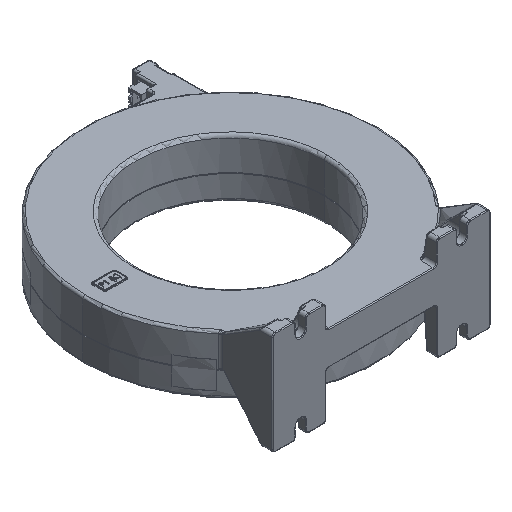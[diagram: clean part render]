
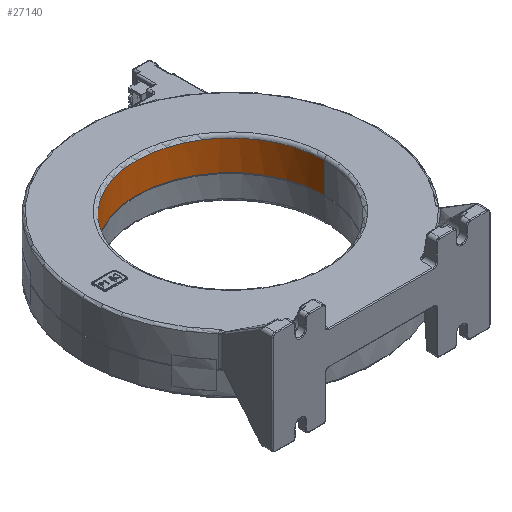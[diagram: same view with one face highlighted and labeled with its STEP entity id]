
A CAD part, isometric view. The second image highlights one B-rep face of the part: STEP entity #27140.
In plain terms, the highlighted cylindrical face has radius 60 mm (diameter 120 mm), a partial arc.
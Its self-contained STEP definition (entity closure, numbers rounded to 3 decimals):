
#343 = CARTESIAN_POINT ( 'NONE',  ( 47.706, 36.599, -2. ) ) ;
#941 = CARTESIAN_POINT ( 'NONE',  ( 36.599, 47.706, -2. ) ) ;
#1529 = CARTESIAN_POINT ( 'NONE',  ( 7.854, 59.613, -2. ) ) ;
#4025 = CIRCLE ( 'NONE', #21130, 60. ) ;
#4093 = EDGE_CURVE ( 'NONE', #14549, #35605, #33421, .T. ) ;
#4246 = CARTESIAN_POINT ( 'NONE',  ( -60., 3.927, -2. ) ) ;
#4535 = CARTESIAN_POINT ( 'NONE',  ( -15.557, 58.081, -2. ) ) ;
#5112 = CARTESIAN_POINT ( 'NONE',  ( 19.333, 56.936, -2. ) ) ;
#5984 = CARTESIAN_POINT ( 'NONE',  ( 59.613, 7.854, -2. ) ) ;
#7756 = DIRECTION ( 'NONE',  ( 1., 0., 0. ) ) ;
#9039 = CARTESIAN_POINT ( 'NONE',  ( -26.589, 53.93, -2. ) ) ;
#9331 = CARTESIAN_POINT ( 'NONE',  ( -3.927, 60., -2. ) ) ;
#12651 = EDGE_CURVE ( 'NONE', #22078, #35605, #56354, .T. ) ;
#12837 = CARTESIAN_POINT ( 'NONE',  ( -39.65, 45.203, -2. ) ) ;
#13423 = CARTESIAN_POINT ( 'NONE',  ( -56.936, 19.333, -2. ) ) ;
#13882 = ORIENTED_EDGE ( 'NONE', *, *, #58678, .T. ) ;
#14319 = CARTESIAN_POINT ( 'NONE',  ( 56.936, 19.333, -2. ) ) ;
#14549 = VERTEX_POINT ( 'NONE', #46084 ) ;
#14604 = DIRECTION ( 'NONE',  ( 0., 0., 1. ) ) ;
#14620 = CARTESIAN_POINT ( 'NONE',  ( 15.557, 58.081, -2. ) ) ;
#16582 = FACE_OUTER_BOUND ( 'NONE', #29731, .T. ) ;
#19815 = ORIENTED_EDGE ( 'NONE', *, *, #4093, .F. ) ;
#21130 = AXIS2_PLACEMENT_3D ( 'NONE', #42134, #14604, #7756 ) ;
#21506 = CARTESIAN_POINT ( 'NONE',  ( -60., 0., -2. ) ) ;
#21894 = LINE ( 'NONE', #39320, #36842 ) ;
#22078 = VERTEX_POINT ( 'NONE', #23797 ) ;
#22364 = CARTESIAN_POINT ( 'NONE',  ( -53.93, 26.589, -2. ) ) ;
#23522 = CARTESIAN_POINT ( 'NONE',  ( 53.93, 26.589, -2. ) ) ;
#23675 = DIRECTION ( 'NONE',  ( 1., 0., 0. ) ) ;
#23797 = CARTESIAN_POINT ( 'NONE',  ( -60., 0., -2. ) ) ;
#27140 = ADVANCED_FACE ( 'NONE', ( #16582 ), #39376, .T. ) ;
#28269 = CARTESIAN_POINT ( 'NONE',  ( 26.589, 53.93, -2. ) ) ;
#28989 = CARTESIAN_POINT ( 'NONE',  ( 60., 0., -35.405 ) ) ;
#29731 = EDGE_LOOP ( 'NONE', ( #13882, #44837, #57531, #19815 ) ) ;
#32361 = AXIS2_PLACEMENT_3D ( 'NONE', #41726, #50652, #23675 ) ;
#32380 = CARTESIAN_POINT ( 'NONE',  ( 3.927, 60., -2. ) ) ;
#33421 = LINE ( 'NONE', #28989, #33677 ) ;
#33677 = VECTOR ( 'NONE', #42602, 1000. ) ;
#35381 = CARTESIAN_POINT ( 'NONE',  ( -47.706, 36.599, -2. ) ) ;
#35605 = VERTEX_POINT ( 'NONE', #48223 ) ;
#36842 = VECTOR ( 'NONE', #57493, 1000. ) ;
#36844 = CARTESIAN_POINT ( 'NONE',  ( 52.07, 30.069, -2. ) ) ;
#39320 = CARTESIAN_POINT ( 'NONE',  ( -60., 0., -35.405 ) ) ;
#39376 = CYLINDRICAL_SURFACE ( 'NONE', #32361, 60. ) ;
#40397 = CARTESIAN_POINT ( 'NONE',  ( -52.07, 30.069, -2. ) ) ;
#40686 = CARTESIAN_POINT ( 'NONE',  ( -7.854, 59.613, -2. ) ) ;
#40983 = CARTESIAN_POINT ( 'NONE',  ( 60., 0., -2. ) ) ;
#41726 = CARTESIAN_POINT ( 'NONE',  ( 0., 0., -35.405 ) ) ;
#42134 = CARTESIAN_POINT ( 'NONE',  ( 0., 0., -21.15 ) ) ;
#42149 = CARTESIAN_POINT ( 'NONE',  ( 39.65, 45.203, -2. ) ) ;
#42602 = DIRECTION ( 'NONE',  ( 0., 0., 1. ) ) ;
#44837 = ORIENTED_EDGE ( 'NONE', *, *, #55450, .T. ) ;
#45184 = CARTESIAN_POINT ( 'NONE',  ( -19.333, 56.936, -2. ) ) ;
#45759 = CARTESIAN_POINT ( 'NONE',  ( 60., 3.927, -2. ) ) ;
#46084 = CARTESIAN_POINT ( 'NONE',  ( 60., 0., -21.15 ) ) ;
#46355 = CARTESIAN_POINT ( 'NONE',  ( 58.081, 15.557, -2. ) ) ;
#46446 = VERTEX_POINT ( 'NONE', #50706 ) ;
#46649 = CARTESIAN_POINT ( 'NONE',  ( 45.203, 39.65, -2. ) ) ;
#48223 = CARTESIAN_POINT ( 'NONE',  ( 60., 0., -2. ) ) ;
#48733 = CARTESIAN_POINT ( 'NONE',  ( -59.613, 7.854, -2. ) ) ;
#50652 = DIRECTION ( 'NONE',  ( 0., 0., 1. ) ) ;
#50706 = CARTESIAN_POINT ( 'NONE',  ( -60., 0., -21.15 ) ) ;
#53482 = CARTESIAN_POINT ( 'NONE',  ( -45.203, 39.65, -2. ) ) ;
#54098 = CARTESIAN_POINT ( 'NONE',  ( -30.069, 52.07, -2. ) ) ;
#55450 = EDGE_CURVE ( 'NONE', #46446, #22078, #21894, .T. ) ;
#55851 = CARTESIAN_POINT ( 'NONE',  ( 30.069, 52.07, -2. ) ) ;
#56354 = B_SPLINE_CURVE_WITH_KNOTS ( 'NONE', 3,
 ( #21506, #4246, #48733, #57968, #13423, #22364, #40397, #35381, #53482, #12837, #58574, #54098, #9039, #45184, #4535, #40686, #9331, #32380, #1529, #14620, #5112, #28269, #55851, #941, #42149, #46649, #343, #36844, #23522, #14319, #46355, #5984, #45759, #40983 ),
 .UNSPECIFIED., .F., .F.,
 ( 4, 2, 2, 2, 2, 2, 2, 2, 2, 2, 2, 2, 2, 2, 2, 2, 4 ),
 ( 0., 0.062, 0.125, 0.187, 0.25, 0.313, 0.375, 0.438, 0.5, 0.563, 0.625, 0.688, 0.75, 0.813, 0.875, 0.938, 1. ),
 .UNSPECIFIED. ) ;
#57493 = DIRECTION ( 'NONE',  ( 0., 0., 1. ) ) ;
#57531 = ORIENTED_EDGE ( 'NONE', *, *, #12651, .T. ) ;
#57968 = CARTESIAN_POINT ( 'NONE',  ( -58.081, 15.557, -2. ) ) ;
#58574 = CARTESIAN_POINT ( 'NONE',  ( -36.599, 47.706, -2. ) ) ;
#58678 = EDGE_CURVE ( 'NONE', #14549, #46446, #4025, .T. ) ;
